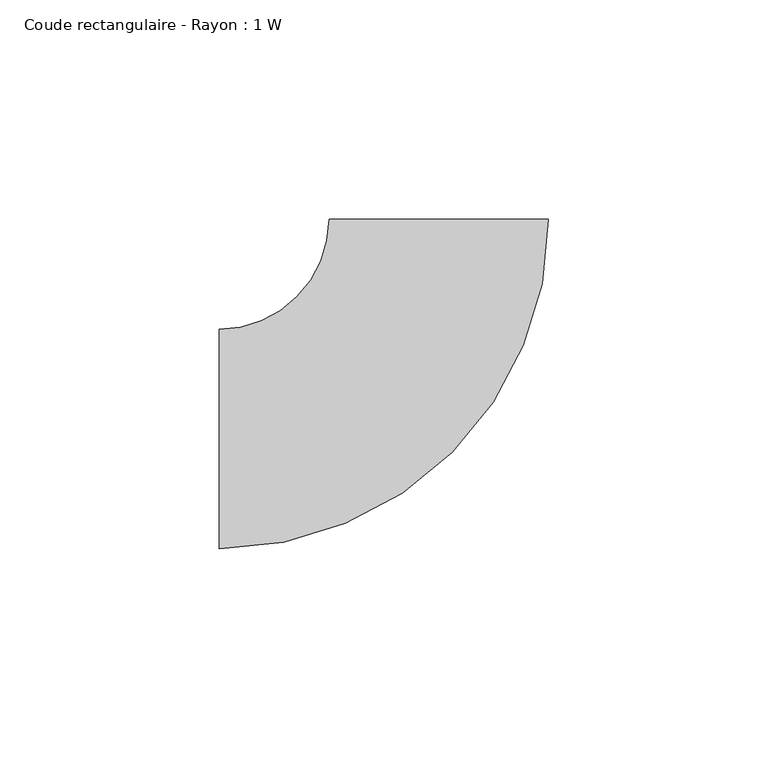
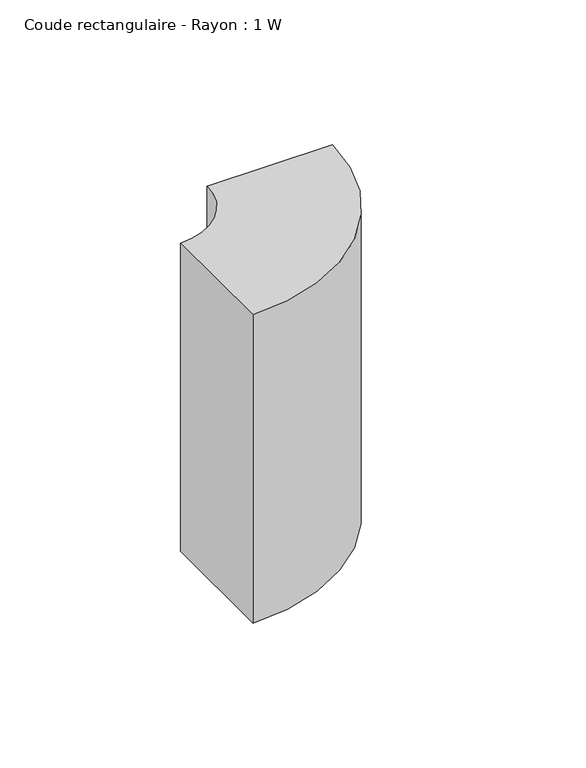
"""IFC4 building model written with IfcOpenShell, lengths in millimetres: duct fitting geometry, Coude rectangulaire - Rayon : 1 W."""

from ifc_helpers import new_model, si_unit, point, frame, frame_2d, origin, place, context, project, spatial, polyline, circle_curve, trimmed, segment, composite_curve, outline, extrude, source, transform, mapped, element, save


def coude_rectangulaire_rayon_1_w_c2cb62bf(model_context):
    return source(origin(), model_context, "Body", "SweptSolid", [
        extrude(outline(composite_curve([segment(trimmed(circle_curve(frame_2d((-50.0024189, 50.0)), 75.0), [point((24.997581, 50.0036283))], [point((-50.0024189, -25.0))], False, "CARTESIAN"), True, "CONTINUOUS"), segment(polyline([(-50.0024189, -25.0), (-50.0024189, 25.0)]), True, "CONTINUOUS"), segment(trimmed(circle_curve(frame_2d((-50.0024189, 50.0)), 25.0), [point((-50.0024189, 25.0))], [point((-25.002419, 50.0012094))], True, "CARTESIAN"), True, "CONTINUOUS"), segment(polyline([(-25.002419, 50.0012094), (24.997581, 50.0036283)]), True, "CONTINUOUS")], self_intersect=False)), frame((0.0, 0.0, -65.0), z_axis=(0.0, 0.0, 1.0), x_axis=(1.0, 0.0, 0.0)), (0.0, 0.0, 1.0), 130.0),
    ])


if __name__ == "__main__":
    model = new_model("IFC4")
    model_context = context("Model", 3, world=origin())
    ifc_project = project(units=[si_unit("LENGTHUNIT", "METRE", prefix="MILLI")], contexts=[model_context])
    site = spatial("IfcSite", under=ifc_project)
    building = spatial("IfcBuilding", under=site)
    placement = place(None, origin())
    coude_rectangulaire_rayon_1_w_shape = coude_rectangulaire_rayon_1_w_c2cb62bf(model_context)
    element("IfcDuctFitting", 1, ObjectType="Coude rectangulaire - Rayon : 1 W", at=placement, inside=building, context=model_context, shape_type="MappedRepresentation", body=[
        mapped(coude_rectangulaire_rayon_1_w_shape, transform((0.0, 0.0, 0.0), x_axis=(1.0, 0.0, 0.0), y_axis=(0.0, 1.0, 0.0), z_axis=(0.0, 0.0, 1.0))),
    ])
    save(model, "model.ifc")
